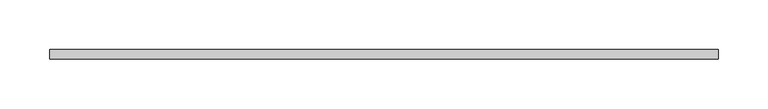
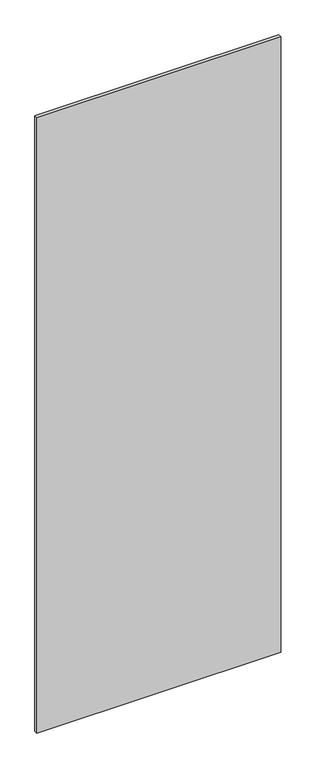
"""IFC4 building model written with IfcOpenShell, lengths in millimetres: plate geometry, СP_стекло : стекло."""

from ifc_helpers import new_model, si_unit, origin, origin_with_axes, place, context, project, spatial, polyline, outline, extrude, source, transform, mapped, element, save


def plate_68ea460e(model_context):
    return source(origin(), model_context, "Body", "SweptSolid", [
        extrude(outline(polyline([(337.5, -5.0), (-337.5, -5.0), (-337.5, 5.0), (337.5, 5.0), (337.5, -5.0)])), origin_with_axes(), (0.0, 0.0, 1.0), 1800.0),
    ])


if __name__ == "__main__":
    model = new_model("IFC4")
    model_context = context("Model", 3, world=origin())
    ifc_project = project(units=[si_unit("LENGTHUNIT", "METRE", prefix="MILLI")], contexts=[model_context])
    site = spatial("IfcSite", under=ifc_project)
    building = spatial("IfcBuilding", under=site)
    placement = place(None, origin())
    plate_shape = plate_68ea460e(model_context)
    element("IfcPlate", 1, ObjectType="СP_стекло : стекло", at=placement, inside=building, context=model_context, shape_type="MappedRepresentation", body=[
        mapped(plate_shape, transform((0.0, 0.0, 0.0), x_axis=(1.0, 0.0, 0.0), y_axis=(0.0, 1.0, 0.0), z_axis=(0.0, 0.0, 1.0))),
    ])
    save(model, "model.ifc")
